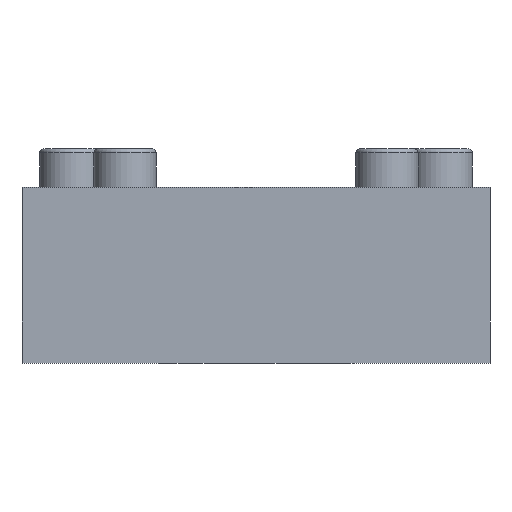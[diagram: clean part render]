
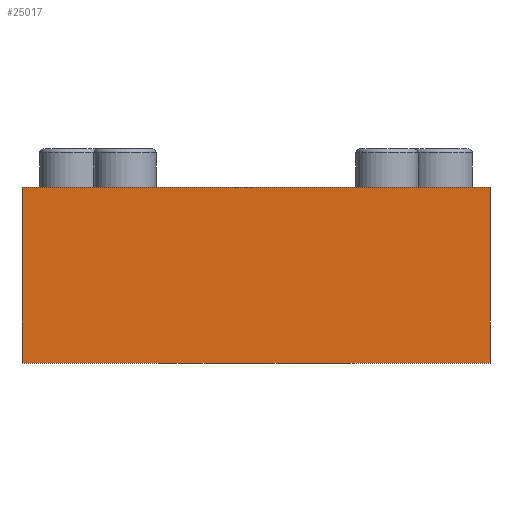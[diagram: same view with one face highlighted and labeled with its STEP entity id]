
A CAD part, front view. The second image highlights one B-rep face of the part: STEP entity #25017.
In plain terms, the highlighted planar face has unit normal (0, -1, 0).
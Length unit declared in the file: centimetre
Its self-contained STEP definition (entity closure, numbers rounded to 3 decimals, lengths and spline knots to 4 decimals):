
#2683=FACE_OUTER_BOUND('',#4015,.T.);
#4015=EDGE_LOOP('',(#16945,#16946,#16947,#16948));
#5497=LINE('',#32098,#8201);
#5501=LINE('',#32107,#8205);
#5502=LINE('',#32108,#8206);
#5503=LINE('',#32109,#8207);
#8201=VECTOR('',#27371,4.506);
#8205=VECTOR('',#27377,4.506);
#8206=VECTOR('',#27378,12.);
#8207=VECTOR('',#27379,12.);
#10957=VERTEX_POINT('',#32096);
#10958=VERTEX_POINT('',#32097);
#10961=VERTEX_POINT('',#32105);
#10962=VERTEX_POINT('',#32106);
#13359=EDGE_CURVE('',#10957,#10958,#5497,.T.);
#13363=EDGE_CURVE('',#10961,#10962,#5501,.T.);
#13364=EDGE_CURVE('',#10958,#10962,#5502,.T.);
#13365=EDGE_CURVE('',#10961,#10957,#5503,.T.);
#16945=ORIENTED_EDGE('',*,*,#13363,.T.);
#16946=ORIENTED_EDGE('',*,*,#13364,.F.);
#16947=ORIENTED_EDGE('',*,*,#13359,.F.);
#16948=ORIENTED_EDGE('',*,*,#13365,.F.);
#24103=PLANE('',#26353);
#25017=ADVANCED_FACE('',(#2683),#24103,.T.);
#26353=AXIS2_PLACEMENT_3D('',#32104,#27375,#27376);
#27371=DIRECTION('',(0.,0.,1.));
#27375=DIRECTION('center_axis',(0.,-1.,0.));
#27376=DIRECTION('ref_axis',(-1.,0.,0.));
#27377=DIRECTION('',(0.,0.,1.));
#27378=DIRECTION('',(1.,0.,0.));
#27379=DIRECTION('',(-1.,0.,0.));
#32096=CARTESIAN_POINT('',(-6.,-24.,0.));
#32097=CARTESIAN_POINT('',(-6.,-24.,4.506));
#32098=CARTESIAN_POINT('',(-6.,-24.,0.));
#32104=CARTESIAN_POINT('Origin',(6.,-24.,4.506));
#32105=CARTESIAN_POINT('',(6.,-24.,0.));
#32106=CARTESIAN_POINT('',(6.,-24.,4.506));
#32107=CARTESIAN_POINT('',(6.,-24.,0.));
#32108=CARTESIAN_POINT('',(-6.,-24.,4.506));
#32109=CARTESIAN_POINT('',(6.,-24.,0.));
